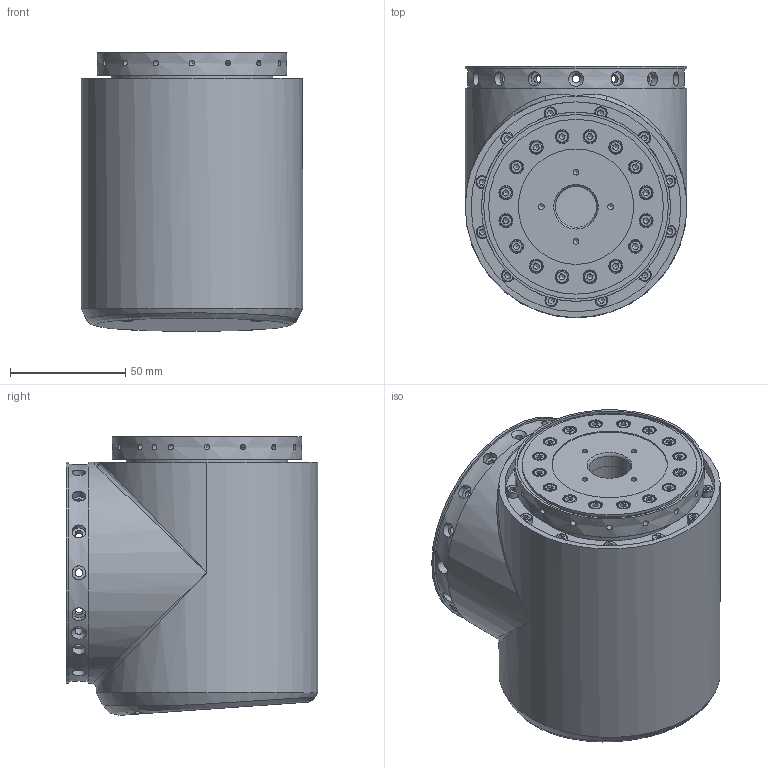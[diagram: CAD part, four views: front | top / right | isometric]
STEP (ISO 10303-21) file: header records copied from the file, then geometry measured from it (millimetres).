
FILE_DESCRIPTION (( 'STEP AP203' ), '1' );
FILE_NAME ('eRob90H｡ﾁ｡ﾁT.STEP', '2022-12-07T08:59:33', ( 'Windows User' ), ( 'P R C' ), 'SwSTEP 2.0', 'SolidWorks 2021', '' );
FILE_SCHEMA (( 'CONFIG_CONTROL_DESIGN' ));
Length unit declared in the file: millimetre
Products named in the file (3): eRob90H℅℅T; eRob90H××T.step; The back cover of eRob90T.step
Assembly tree (2 placements, depth 2):
  eRob90H℅℅T
    eRob90H××T.step
    The back cover of eRob90T.step
Bounding box: 96 x 109 x 120.78 mm (x, y, z)
Volume: 711320.8 mm3; surface area: 143243.3 mm2
Topology: 14 solids, 34 shells, 2644 faces, 6863 edges, 4457 vertices
Faces by surface type: plane 1919, cylinder 392, bspline 193, cone 96, torus 40, sphere 4
Full cylindrical faces by diameter (mm): 1.25 x3, 1.6 x6, 1.8 x1, 2.5 x46, 3 x28, 3.4 x38, 4.5 x4, 5.5 x28, 6 x35, 18 x3, 21 x1, 22 x1, 50 x1, 68 x1, 70 x2, 75.8 x1, 80 x1, 82 x2, 87 x1, 89.7 x2, 91 x1, 94 x1, 96 x3
Entity records: 99142 total; most frequent: CARTESIAN_POINT 37375, ORIENTED_EDGE 12688, DIRECTION 11579, EDGE_CURVE 6344, LINE 4881, VECTOR 4881, VERTEX_POINT 4286, EDGE_LOOP 3350
